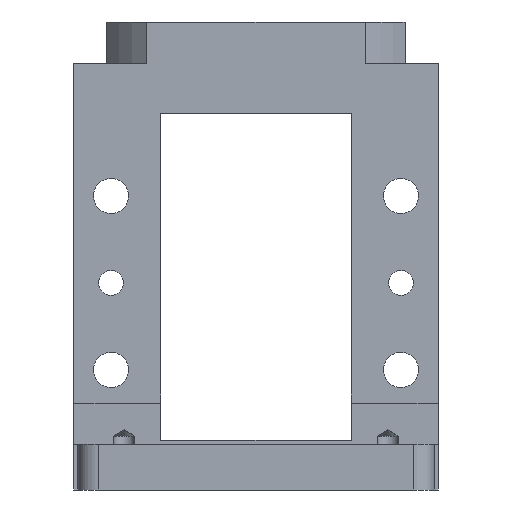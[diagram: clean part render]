
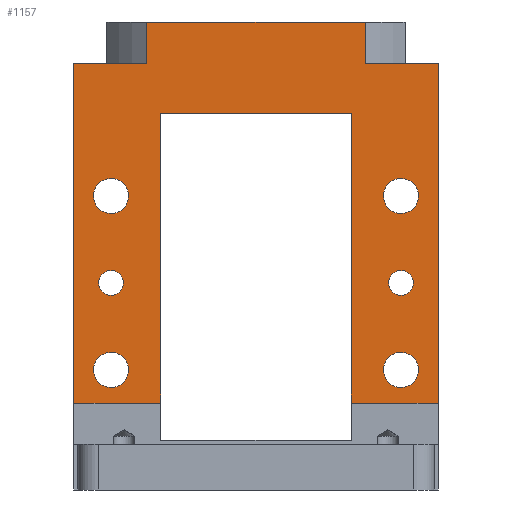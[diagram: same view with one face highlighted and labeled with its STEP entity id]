
A CAD part, front view. The second image highlights one B-rep face of the part: STEP entity #1157.
In plain terms, the highlighted planar face has unit normal (0, -1, 0).
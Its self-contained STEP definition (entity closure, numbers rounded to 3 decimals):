
#536=PLANE('',#3724);
#676=LINE('',#4872,#895);
#677=LINE('',#4875,#896);
#678=LINE('',#4877,#897);
#679=LINE('',#4879,#898);
#680=LINE('',#4881,#899);
#681=LINE('',#4883,#900);
#682=LINE('',#4885,#901);
#683=LINE('',#4887,#902);
#684=LINE('',#4889,#903);
#685=LINE('',#4891,#904);
#686=LINE('',#4893,#905);
#687=LINE('',#4895,#906);
#895=VECTOR('',#4091,1.);
#896=VECTOR('',#4092,1.);
#897=VECTOR('',#4093,1.);
#898=VECTOR('',#4094,1.);
#899=VECTOR('',#4095,1.);
#900=VECTOR('',#4096,1.);
#901=VECTOR('',#4097,1.);
#902=VECTOR('',#4098,1.);
#903=VECTOR('',#4099,1.);
#904=VECTOR('',#4100,1.);
#905=VECTOR('',#4101,1.);
#906=VECTOR('',#4102,1.);
#1157=ADVANCED_FACE('',(#1417,#1418,#1419,#1420,#1421,#1422,#1423),#536,
 .F.);
#1417=FACE_BOUND('',#1548,.T.);
#1418=FACE_BOUND('',#1549,.T.);
#1419=FACE_BOUND('',#1550,.T.);
#1420=FACE_BOUND('',#1551,.T.);
#1421=FACE_BOUND('',#1552,.T.);
#1422=FACE_BOUND('',#1553,.T.);
#1423=FACE_BOUND('',#1554,.T.);
#1548=EDGE_LOOP('',(#1859));
#1549=EDGE_LOOP('',(#1860));
#1550=EDGE_LOOP('',(#1861));
#1551=EDGE_LOOP('',(#1862));
#1552=EDGE_LOOP('',(#1863));
#1553=EDGE_LOOP('',(#1864));
#1554=EDGE_LOOP('',(#1865,#1866,#1867,#1868,#1869,#1870,#1871,#1872,#1873,
#1874,#1875,#1876));
#1859=ORIENTED_EDGE('',*,*,#3084,.F.);
#1860=ORIENTED_EDGE('',*,*,#3064,.F.);
#1861=ORIENTED_EDGE('',*,*,#3128,.F.);
#1862=ORIENTED_EDGE('',*,*,#3131,.F.);
#1863=ORIENTED_EDGE('',*,*,#3134,.F.);
#1864=ORIENTED_EDGE('',*,*,#3138,.F.);
#1865=ORIENTED_EDGE('',*,*,#3160,.T.);
#1866=ORIENTED_EDGE('',*,*,#3161,.T.);
#1867=ORIENTED_EDGE('',*,*,#3162,.F.);
#1868=ORIENTED_EDGE('',*,*,#3163,.T.);
#1869=ORIENTED_EDGE('',*,*,#3164,.T.);
#1870=ORIENTED_EDGE('',*,*,#3165,.T.);
#1871=ORIENTED_EDGE('',*,*,#3166,.F.);
#1872=ORIENTED_EDGE('',*,*,#3167,.T.);
#1873=ORIENTED_EDGE('',*,*,#3168,.F.);
#1874=ORIENTED_EDGE('',*,*,#3169,.F.);
#1875=ORIENTED_EDGE('',*,*,#3170,.F.);
#1876=ORIENTED_EDGE('',*,*,#3171,.T.);
#2717=VERTEX_POINT('',#4585);
#2737=VERTEX_POINT('',#4627);
#2784=VERTEX_POINT('',#4797);
#2787=VERTEX_POINT('',#4805);
#2790=VERTEX_POINT('',#4813);
#2794=VERTEX_POINT('',#4823);
#2815=VERTEX_POINT('',#4873);
#2816=VERTEX_POINT('',#4874);
#2817=VERTEX_POINT('',#4876);
#2818=VERTEX_POINT('',#4878);
#2819=VERTEX_POINT('',#4880);
#2820=VERTEX_POINT('',#4882);
#2821=VERTEX_POINT('',#4884);
#2822=VERTEX_POINT('',#4886);
#2823=VERTEX_POINT('',#4888);
#2824=VERTEX_POINT('',#4890);
#2825=VERTEX_POINT('',#4892);
#2826=VERTEX_POINT('',#4894);
#3064=EDGE_CURVE('',#2717,#2717,#3550,.T.);
#3084=EDGE_CURVE('',#2737,#2737,#3556,.T.);
#3128=EDGE_CURVE('',#2784,#2784,#3591,.T.);
#3131=EDGE_CURVE('',#2787,#2787,#3594,.T.);
#3134=EDGE_CURVE('',#2790,#2790,#3597,.T.);
#3138=EDGE_CURVE('',#2794,#2794,#3601,.T.);
#3160=EDGE_CURVE('',#2815,#2816,#676,.T.);
#3161=EDGE_CURVE('',#2816,#2817,#677,.T.);
#3162=EDGE_CURVE('',#2818,#2817,#678,.T.);
#3163=EDGE_CURVE('',#2818,#2819,#679,.T.);
#3164=EDGE_CURVE('',#2819,#2820,#680,.T.);
#3165=EDGE_CURVE('',#2820,#2821,#681,.T.);
#3166=EDGE_CURVE('',#2822,#2821,#682,.T.);
#3167=EDGE_CURVE('',#2822,#2823,#683,.T.);
#3168=EDGE_CURVE('',#2824,#2823,#684,.T.);
#3169=EDGE_CURVE('',#2825,#2824,#685,.T.);
#3170=EDGE_CURVE('',#2826,#2825,#686,.T.);
#3171=EDGE_CURVE('',#2826,#2815,#687,.T.);
#3550=CIRCLE('',#3628,3.);
#3556=CIRCLE('',#3636,3.);
#3591=CIRCLE('',#3696,4.25);
#3594=CIRCLE('',#3701,4.25);
#3597=CIRCLE('',#3706,4.25);
#3601=CIRCLE('',#3712,4.25);
#3628=AXIS2_PLACEMENT_3D('',#4584,#3861,#3862);
#3636=AXIS2_PLACEMENT_3D('',#4626,#3891,#3892);
#3696=AXIS2_PLACEMENT_3D('',#4796,#4018,#4019);
#3701=AXIS2_PLACEMENT_3D('',#4804,#4028,#4029);
#3706=AXIS2_PLACEMENT_3D('',#4812,#4038,#4039);
#3712=AXIS2_PLACEMENT_3D('',#4822,#4050,#4051);
#3724=AXIS2_PLACEMENT_3D('',#4896,#4103,#4104);
#3861=DIRECTION('',(0.,-1.,0.));
#3862=DIRECTION('',(0.,0.,-1.));
#3891=DIRECTION('',(0.,-1.,0.));
#3892=DIRECTION('',(0.,0.,-1.));
#4018=DIRECTION('',(0.,-1.,0.));
#4019=DIRECTION('',(0.,0.,1.));
#4028=DIRECTION('',(0.,-1.,0.));
#4029=DIRECTION('',(0.,0.,1.));
#4038=DIRECTION('',(0.,-1.,0.));
#4039=DIRECTION('',(0.,0.,1.));
#4050=DIRECTION('',(0.,-1.,0.));
#4051=DIRECTION('',(0.,0.,1.));
#4091=DIRECTION('',(0.,0.,-1.));
#4092=DIRECTION('',(1.,0.,0.));
#4093=DIRECTION('',(0.,0.,-1.));
#4094=DIRECTION('',(1.,0.,0.));
#4095=DIRECTION('',(0.,0.,-1.));
#4096=DIRECTION('',(1.,0.,0.));
#4097=DIRECTION('',(0.,0.,-1.));
#4098=DIRECTION('',(-1.,0.,0.));
#4099=DIRECTION('',(0.,0.,-1.));
#4100=DIRECTION('',(1.,0.,0.));
#4101=DIRECTION('',(0.,0.,1.));
#4102=DIRECTION('',(-1.,0.,0.));
#4103=DIRECTION('',(0.,1.,0.));
#4104=DIRECTION('',(0.,0.,-1.));
#4584=CARTESIAN_POINT('',(35.,-34.,44.));
#4585=CARTESIAN_POINT('',(35.,-34.,41.));
#4626=CARTESIAN_POINT('',(-35.,-34.,44.));
#4627=CARTESIAN_POINT('',(-35.,-34.,41.));
#4796=CARTESIAN_POINT('',(-35.,-34.,23.));
#4797=CARTESIAN_POINT('',(-35.,-34.,27.25));
#4804=CARTESIAN_POINT('',(35.,-34.,23.));
#4805=CARTESIAN_POINT('',(35.,-34.,27.25));
#4812=CARTESIAN_POINT('',(35.,-34.,65.));
#4813=CARTESIAN_POINT('',(35.,-34.,69.25));
#4822=CARTESIAN_POINT('',(-35.,-34.,65.));
#4823=CARTESIAN_POINT('',(-35.,-34.,69.25));
#4872=CARTESIAN_POINT('',(-44.,-34.,10.));
#4873=CARTESIAN_POINT('',(-44.,-34.,97.));
#4874=CARTESIAN_POINT('',(-44.,-34.,15.));
#4875=CARTESIAN_POINT('',(-76.,-34.,15.));
#4876=CARTESIAN_POINT('',(-23.,-34.,15.));
#4877=CARTESIAN_POINT('',(-23.,-34.,97.));
#4878=CARTESIAN_POINT('',(-23.,-34.,85.));
#4879=CARTESIAN_POINT('',(-43.,-34.,85.));
#4880=CARTESIAN_POINT('',(23.,-34.,85.));
#4881=CARTESIAN_POINT('',(23.,-34.,97.));
#4882=CARTESIAN_POINT('',(23.,-34.,15.));
#4883=CARTESIAN_POINT('',(-76.,-34.,15.));
#4884=CARTESIAN_POINT('',(44.,-34.,15.));
#4885=CARTESIAN_POINT('',(44.,-34.,10.));
#4886=CARTESIAN_POINT('',(44.,-34.,97.));
#4887=CARTESIAN_POINT('',(43.,-34.,97.));
#4888=CARTESIAN_POINT('',(26.325,-34.,97.));
#4889=CARTESIAN_POINT('',(26.325,-34.,-25.839));
#4890=CARTESIAN_POINT('',(26.325,-34.,107.));
#4891=CARTESIAN_POINT('',(-36.,-34.,107.));
#4892=CARTESIAN_POINT('',(-26.325,-34.,107.));
#4893=CARTESIAN_POINT('',(-26.325,-34.,-25.839));
#4894=CARTESIAN_POINT('',(-26.325,-34.,97.));
#4895=CARTESIAN_POINT('',(43.,-34.,97.));
#4896=CARTESIAN_POINT('',(43.,-34.,97.));
